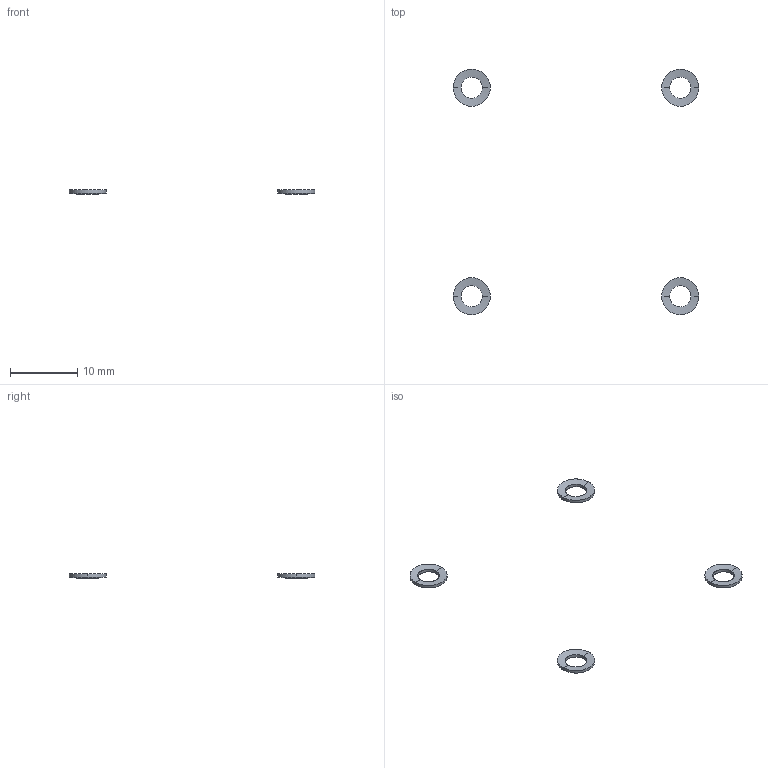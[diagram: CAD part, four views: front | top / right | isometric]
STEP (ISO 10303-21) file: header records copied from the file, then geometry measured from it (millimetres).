
FILE_DESCRIPTION(/* description */ (''),/* implementation_level */ '2;1');
FILE_NAME(/* name */ '8.x-drive#8.3#GTS3',/* time_stamp */ '2014-12-01T20:18:03+01:00',/* author */ (''),/* organization */ (''),/* preprocessor_version */ 'ST-DEVELOPER v14',/* originating_system */ '',/* authorisation */ '');
FILE_SCHEMA (('AUTOMOTIVE_DESIGN'));
Length unit declared in the file: millimetre
Products named in the file (2): Document; washer Schnorr-like, lock, M3
Assembly tree (4 placements, depth 2):
  Document
    washer Schnorr-like, lock, M3  x4
Bounding box: 36.5 x 36.5 x 0.6 mm (x, y, z)
Surface area: 176.1 mm2 (no closed solid volume)
Topology: 0 solids, 32 shells, 32 faces, 128 edges, 128 vertices
Faces by surface type: bspline 32
Entity records: 779 total; most frequent: CARTESIAN_POINT 359, B_SPLINE_CURVE_WITH_KNOTS 48, ORIENTED_EDGE 32, PCURVE 32, DEFINITIONAL_REPRESENTATION 32, SURFACE_CURVE 32, EDGE_CURVE 32, VERTEX_POINT 32
